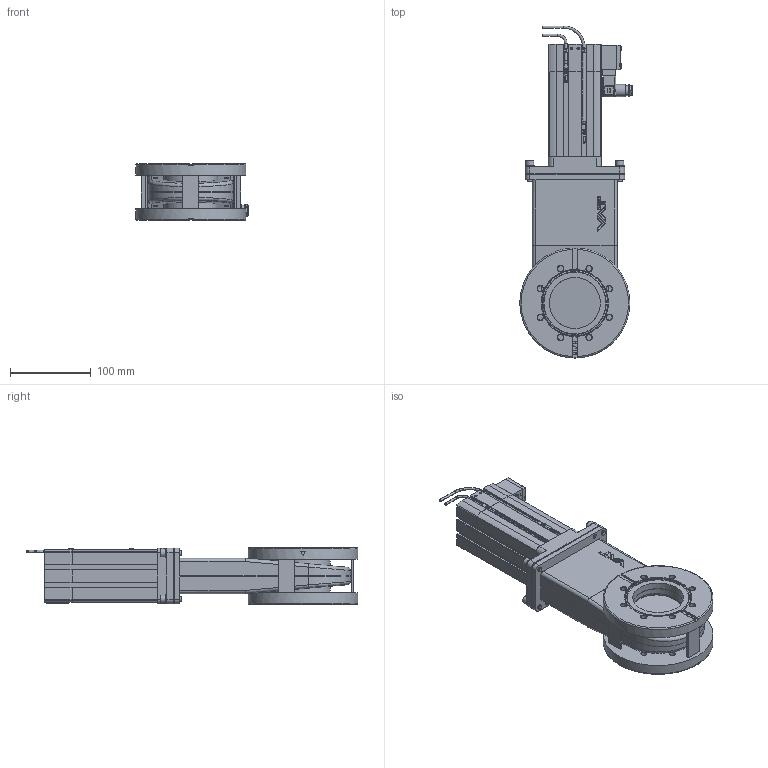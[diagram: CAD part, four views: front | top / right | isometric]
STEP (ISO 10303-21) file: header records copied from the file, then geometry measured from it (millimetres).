
FILE_DESCRIPTION(/* description */ (''),/* implementation_level */ '2;1');
FILE_NAME(/* name */ '1127685808_203.stp',/* time_stamp */ '2019-11-25T09:10:41+01:00',/* author */ (''),/* organization */ (''),/* preprocessor_version */ 'ST-DEVELOPER v16',/* originating_system */ 'SIEMENS PLM Software NX 11.0',/* authorisation */ '');
FILE_SCHEMA (('AP203_CONFIGURATION_CONTROLLED_3D_DESIGN_OF_MECHANICAL_PARTS_AND_ASSEMBLIES_MIM_LF { 1 0 10303 403 2 1 2}'));
Length unit declared in the file: millimetre
Products named in the file (32): 461638_28563ID; 487660; 461638_28565ID; 359586.6_28301ID; 255554.2_28300ID; 359586.6_28296ID; 467882; 437235; 707259; 706312; 527371; 251262.4; 255557.2; 326972.2_28620ID; 326972.2; N-7557-016_1.1; N-7557-018.1; N-7557-016_2.1; N-6024-524.1; N-5018-005.1; 255550.3; n-6134-408; 218189; 759778_NX-ARRAGMNTAbstand_85; 759778_NX-ARRAGMNTAbstand_10; 706311_NX-ARRAGMNTAntrieb_v2_09x36-DN063, 2xLM Kabelaustritt hinten; 527370_NX-ARRAGMNTMassbild; 359599.5_NX-ARRAGMNTZusammenstellung_STANDARD; 420633; N-7557-016_3.1_MODELNX-ARRAGMNTArrangement 1; 94800-R1.7_NX-ARRAGMNTKONFIG1; 711561
Assembly tree (47 placements, depth 4):
  711561
    218189  x4
    n-6134-408  x4
    94800-R1.7_NX-ARRAGMNTKONFIG1
      N-5018-005.1  x2
      N-6024-524.1  x6
      N-7557-016_2.1
      N-7557-018.1
      N-7557-016_1.1
      N-7557-016_3.1_MODELNX-ARRAGMNTArrangement 1
        437235
        467882
    255550.3
    420633
      326972.2
      326972.2_28620ID
      359599.5_NX-ARRAGMNTZusammenstellung_STANDARD
        359586.6_28296ID
        255554.2_28300ID
        359586.6_28301ID
      255557.2  x2
      251262.4  x3
    527370_NX-ARRAGMNTMassbild
      527371
    706311_NX-ARRAGMNTAntrieb_v2_09x36-DN063, 2xLM Kabelaustritt hinten
      706312
      707259
      759778_NX-ARRAGMNTAbstand_10
        461638_28565ID
        487660
      759778_NX-ARRAGMNTAbstand_85
        461638_28563ID
        487660
Bounding box: 138.65 x 410.35 x 70 mm (x, y, z)
Volume: 1020012.5 mm3; surface area: 495102.2 mm2
Topology: 49 solids, 51 shells, 2130 faces, 5777 edges, 3878 vertices
Faces by surface type: plane 1219, cylinder 554, bspline 180, cone 122, torus 29, sphere 21, extrusion 5
Full cylindrical faces by diameter (mm): 1 x4, 1.2 x2, 2.3 x2, 2.5 x7, 2.9 x1, 3 x9, 3.2 x2, 3.4 x4, 3.5 x3, 3.8 x5, 4 x3, 4.2 x2, 4.22 x1, 4.96 x4, 5 x13, 5.2 x2, 5.22 x4, 5.4 x1, 5.774 x1, 6 x16, 6.4 x4, 6.5 x8, 6.8 x5, 7 x2, 7.145 x16, 7.2 x1, 8 x2, 8.1 x1, 8.566 x1, 8.8 x2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
Entity records: 73868 total; most frequent: CARTESIAN_POINT 24333, ORIENTED_EDGE 8898, DIRECTION 7925, EDGE_CURVE 4449, VERTEX_POINT 3167, AXIS2_PLACEMENT_3D 2916, EDGE_LOOP 2395, VECTOR 2093
